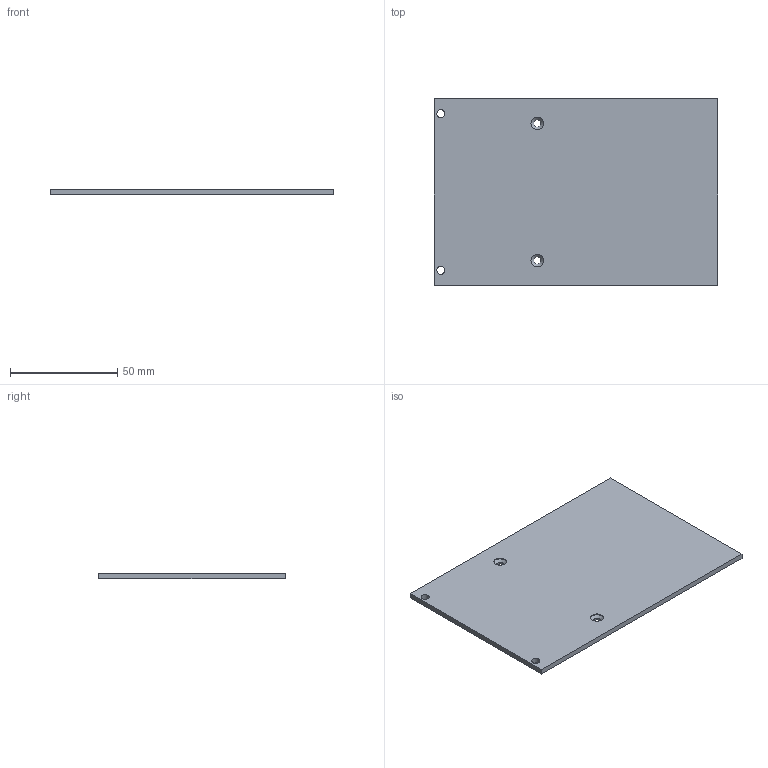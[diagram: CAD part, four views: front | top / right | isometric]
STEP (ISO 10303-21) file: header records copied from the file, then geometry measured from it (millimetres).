
FILE_DESCRIPTION(/* description */ ('BLIND PLATE 3U','CAx-IF Rec.Pracs.---Representation and Presentation of Product Manufacturing Information (PMI)---4.0---2014-10-13'),/* implementation_level */ '2;1');
FILE_NAME(/* name */ 'E:\CAMTEC_2020_Pack and Go\Subrack_3U\2021074001CA.stp',/* time_stamp */ '2020-09-21T17:52:37+02:00',/* author */ ('rryba'),/* organization */ (''),/* preprocessor_version */ 'ST-DEVELOPER v18.1',/* originating_system */ 'Autodesk Inventor 2021',/* authorisation */ '');
FILE_SCHEMA (('AP242_MANAGED_MODEL_BASED_3D_ENGINEERING_MIM_LF { 1 0 10303 442 1 1 4 }'));
Length unit declared in the file: millimetre
Products named in the file (1): 2021074001CA
Bounding box: 132.2 x 87 x 2.5 mm (x, y, z)
Volume: 28612.4 mm3; surface area: 24126.5 mm2
Topology: 1 solids, 1 shells, 14 faces, 40 edges, 32 vertices
Faces by surface type: cylinder 6, plane 6, cone 2
Full cylindrical faces by diameter (mm): 3.4 x2, 3.8 x2, 5.9 x2
Entity records: 516 total; most frequent: DIRECTION 82, CARTESIAN_POINT 79, ORIENTED_EDGE 64, EDGE_CURVE 32, AXIS2_PLACEMENT_3D 31, EDGE_LOOP 22, LINE 20, VECTOR 20
